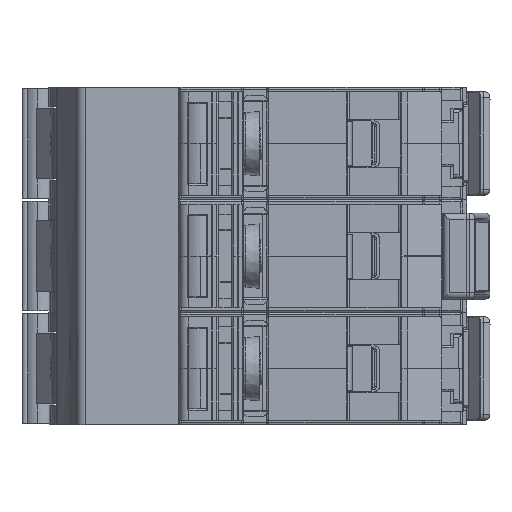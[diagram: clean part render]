
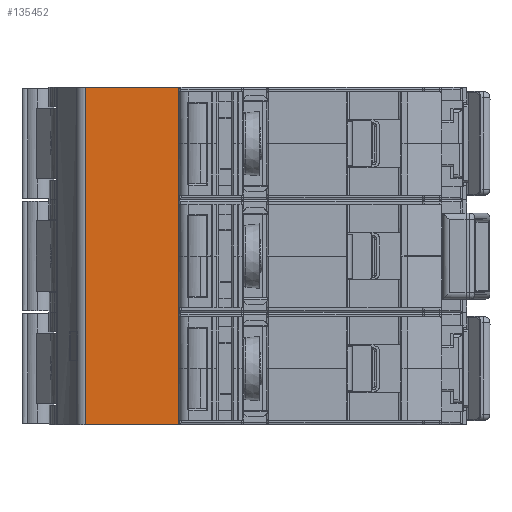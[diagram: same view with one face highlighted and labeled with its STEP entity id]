
A CAD part, left-side view. The second image highlights one B-rep face of the part: STEP entity #135452.
In plain terms, the highlighted planar face has unit normal (-1, 0, 0).
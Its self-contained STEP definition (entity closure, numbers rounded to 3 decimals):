
#4878 = EDGE_LOOP ( 'NONE', ( #178927, #178930, #178933, #178935 ) ) ;
#106922 = CARTESIAN_POINT ( 'NONE',  ( -38.707, 16.729, 43.803 ) ) ;
#106926 = CARTESIAN_POINT ( 'NONE',  ( -38.707, 31.256, 43.803 ) ) ;
#107006 = CARTESIAN_POINT ( 'NONE',  ( -38.707, 31.256, -8.775 ) ) ;
#107011 = CARTESIAN_POINT ( 'NONE',  ( -38.707, 16.729, -8.775 ) ) ;
#114468 = VERTEX_POINT ( 'NONE', #106922 ) ;
#114471 = VERTEX_POINT ( 'NONE', #106926 ) ;
#114533 = VERTEX_POINT ( 'NONE', #107006 ) ;
#114544 = VERTEX_POINT ( 'NONE', #107011 ) ;
#135452 = ADVANCED_FACE ( 'NONE', ( #249668 ), #249572, .F. ) ;
#178927 = ORIENTED_EDGE ( 'NONE', *, *, #197352, .F. ) ;
#178930 = ORIENTED_EDGE ( 'NONE', *, *, #197560, .F. ) ;
#178933 = ORIENTED_EDGE ( 'NONE', *, *, #197562, .T. ) ;
#178935 = ORIENTED_EDGE ( 'NONE', *, *, #197565, .T. ) ;
#197352 = EDGE_CURVE ( 'NONE', #114471, #114468, #246667, .T. ) ;
#197560 = EDGE_CURVE ( 'NONE', #114533, #114471, #247605, .T. ) ;
#197562 = EDGE_CURVE ( 'NONE', #114533, #114544, #247639, .T. ) ;
#197565 = EDGE_CURVE ( 'NONE', #114544, #114468, #247624, .T. ) ;
#199776 = VECTOR ( 'NONE', #246670, 1000. ) ;
#199907 = VECTOR ( 'NONE', #247657, 1000. ) ;
#199921 = VECTOR ( 'NONE', #247637, 1000. ) ;
#199923 = VECTOR ( 'NONE', #247645, 1000. ) ;
#243542 = AXIS2_PLACEMENT_3D ( 'NONE', #249751, #249756, #249759 ) ;
#246667 = LINE ( 'NONE', #246669, #199776 ) ;
#246669 = CARTESIAN_POINT ( 'NONE',  ( -38.707, 19.42, 43.803 ) ) ;
#246670 = DIRECTION ( 'NONE',  ( 0., -1., 0. ) ) ;
#247605 = LINE ( 'NONE', #247610, #199921 ) ;
#247610 = CARTESIAN_POINT ( 'NONE',  ( -38.707, 31.256, -7.32 ) ) ;
#247624 = LINE ( 'NONE', #247648, #199907 ) ;
#247637 = DIRECTION ( 'NONE',  ( 0., 0., 1. ) ) ;
#247639 = LINE ( 'NONE', #247644, #199923 ) ;
#247644 = CARTESIAN_POINT ( 'NONE',  ( -38.707, 31.256, -8.775 ) ) ;
#247645 = DIRECTION ( 'NONE',  ( 0., -1., 0. ) ) ;
#247648 = CARTESIAN_POINT ( 'NONE',  ( -38.707, 16.729, 7.297 ) ) ;
#247657 = DIRECTION ( 'NONE',  ( 0., 0., 1. ) ) ;
#249572 = PLANE ( 'NONE',  #243542 ) ;
#249668 = FACE_OUTER_BOUND ( 'NONE', #4878, .T. ) ;
#249751 = CARTESIAN_POINT ( 'NONE',  ( -38.707, 19.42, -7.32 ) ) ;
#249756 = DIRECTION ( 'NONE',  ( 1., 0., 0. ) ) ;
#249759 = DIRECTION ( 'NONE',  ( 0., 0., -1. ) ) ;
